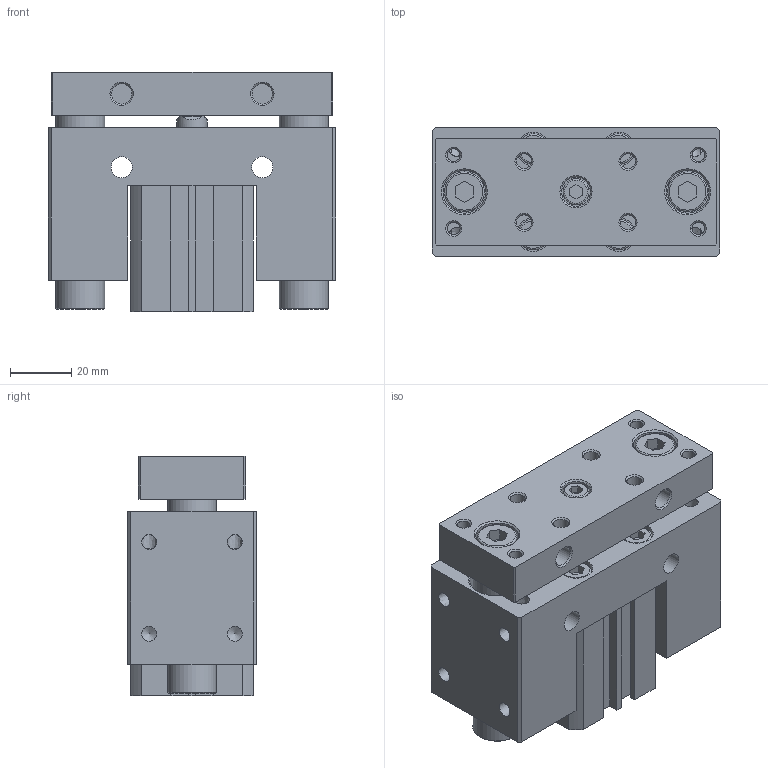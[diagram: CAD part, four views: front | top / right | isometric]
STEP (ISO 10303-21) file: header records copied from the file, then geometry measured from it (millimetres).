
FILE_DESCRIPTION((''),'2;1');
FILE_NAME('I:\3D電子目錄\氣缸\JCB\JCB\JCB25-S\JCB25x10-S.stp','2007-08-21T19:23:39',('Administrator'),(''),'Autodesk Inventor 11','Autodesk Inventor 11','');
FILE_SCHEMA(('AUTOMOTIVE_DESIGN { 1 0 10303 214 1 1 1 1 }'));
Length unit declared in the file: millimetre
Products named in the file (1): JCB25
Bounding box: 94 x 42 x 78.2 mm (x, y, z)
Volume: 226908.2 mm3; surface area: 68752.9 mm2
Topology: 5 solids, 5 shells, 323 faces, 740 edges, 483 vertices
Faces by surface type: plane 172, bspline 61, cylinder 47, cone 35, torus 8
Full cylindrical faces by diameter (mm): 1.5 x2, 4.917 x4, 5.1 x4, 6.647 x2, 8 x8, 8.5 x1, 10 x5, 11 x1, 13 x2, 16 x2, 17 x2, 18 x2, 28 x4, 29.4 x2
Entity records: 8980 total; most frequent: CARTESIAN_POINT 2309, DIRECTION 1332, ORIENTED_EDGE 1160, EDGE_CURVE 580, EDGE_LOOP 544, AXIS2_PLACEMENT_3D 493, VERTEX_POINT 454, VECTOR 346
